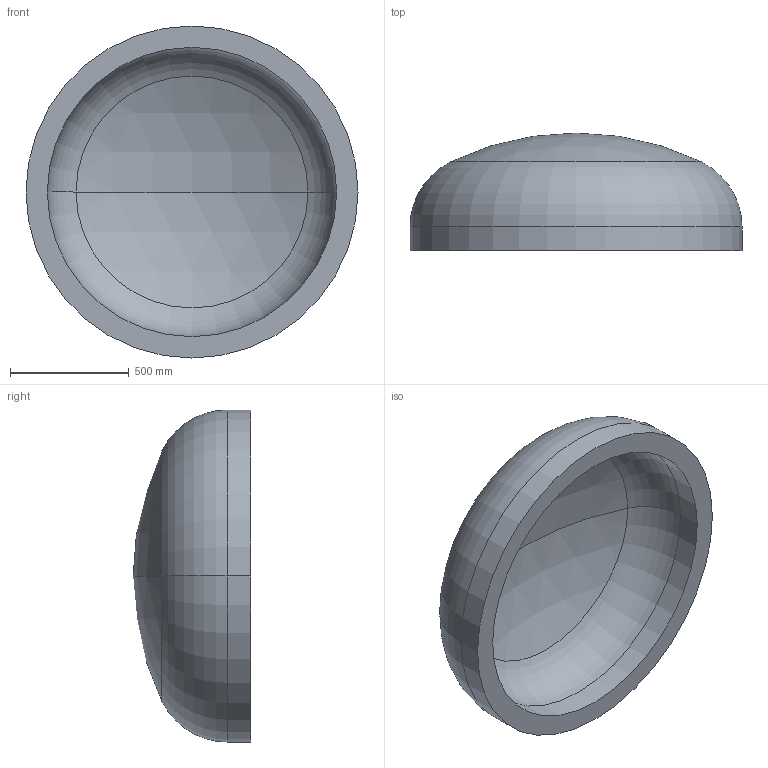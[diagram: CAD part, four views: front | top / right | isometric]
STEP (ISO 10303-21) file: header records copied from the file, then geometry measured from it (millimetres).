
FILE_DESCRIPTION (( 'STEP AP203' ), '1' );
FILE_NAME ('DIN 28013 Korbbogenform_-_Boden DIN 28013 - 1400 x 100 - I - s=90.step', '2016-07-01T10:27:24', ( '' ), ( '' ), 'SwSTEP 2.0', 'SolidWorks 2013', '' );
FILE_SCHEMA (( 'CONFIG_CONTROL_DESIGN' ));
Length unit declared in the file: millimetre
Products named in the file (1): DIN 28013 Korbbogenform_-_Boden DIN 28013 - 1400 x 100 - I - s=90
Bounding box: 1400 x 495.75 x 1400 mm (x, y, z)
Volume: 213771566.6 mm3; surface area: 5137836.6 mm2
Topology: 1 solids, 1 shells, 13 faces, 24 edges, 14 vertices
Faces by surface type: torus 4, cylinder 4, sphere 4, plane 1
Entity records: 407 total; most frequent: DIRECTION 72, CARTESIAN_POINT 52, ORIENTED_EDGE 48, AXIS2_PLACEMENT_3D 34, EDGE_CURVE 24, CIRCLE 20, VERTEX_POINT 14, EDGE_LOOP 14
